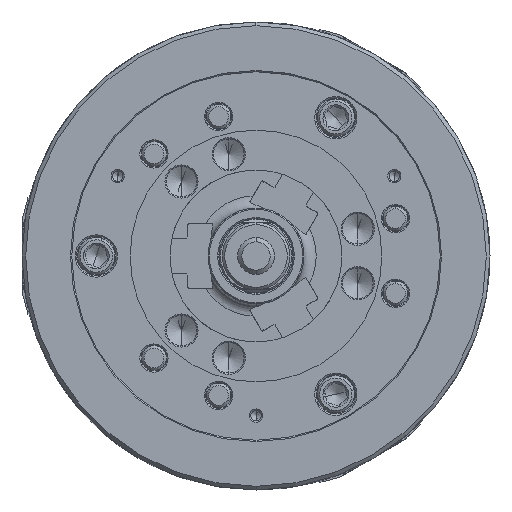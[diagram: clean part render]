
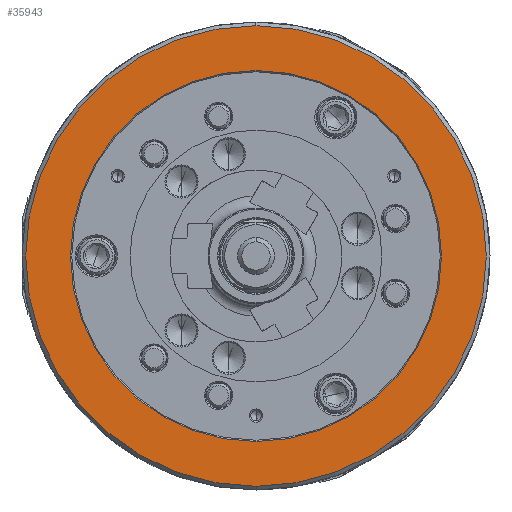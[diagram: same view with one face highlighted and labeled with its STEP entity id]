
A CAD part, left-side view. The second image highlights one B-rep face of the part: STEP entity #35943.
In plain terms, the highlighted planar face has unit normal (-1, 0, 0).
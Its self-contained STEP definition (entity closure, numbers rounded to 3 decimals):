
#2435 = EDGE_LOOP ( 'NONE', ( #108576, #14068 ) ) ;
#10135 = AXIS2_PLACEMENT_3D ( 'NONE', #65404, #44699, #129065 ) ;
#12226 = CIRCLE ( 'NONE', #10135, 151. ) ;
#14068 = ORIENTED_EDGE ( 'NONE', *, *, #25715, .F. ) ;
#20440 = CARTESIAN_POINT ( 'NONE',  ( -114., 0., 0. ) ) ;
#23560 = DIRECTION ( 'NONE',  ( 0., 0., -1. ) ) ;
#23720 = ORIENTED_EDGE ( 'NONE', *, *, #64546, .T. ) ;
#25715 = EDGE_CURVE ( 'NONE', #75032, #72938, #56961, .T. ) ;
#28038 = CARTESIAN_POINT ( 'NONE',  ( -114., 0., -151. ) ) ;
#35943 = ADVANCED_FACE ( 'NONE', ( #55088, #54423 ), #126777, .F. ) ;
#39121 = VERTEX_POINT ( 'NONE', #118206 ) ;
#44699 = DIRECTION ( 'NONE',  ( 1., 0., 0. ) ) ;
#45660 = VERTEX_POINT ( 'NONE', #28038 ) ;
#51496 = AXIS2_PLACEMENT_3D ( 'NONE', #86544, #127435, #107276 ) ;
#54423 = FACE_BOUND ( 'NONE', #100607, .T. ) ;
#55088 = FACE_OUTER_BOUND ( 'NONE', #2435, .T. ) ;
#56419 = CARTESIAN_POINT ( 'NONE',  ( -114., -187.5, 0. ) ) ;
#56961 = CIRCLE ( 'NONE', #115023, 187.5 ) ;
#57430 = EDGE_CURVE ( 'NONE', #45660, #39121, #127833, .T. ) ;
#64546 = EDGE_CURVE ( 'NONE', #39121, #45660, #12226, .T. ) ;
#65099 = DIRECTION ( 'NONE',  ( 1., 0., 0. ) ) ;
#65404 = CARTESIAN_POINT ( 'NONE',  ( -114., 0., 0. ) ) ;
#72938 = VERTEX_POINT ( 'NONE', #122928 ) ;
#74157 = CARTESIAN_POINT ( 'NONE',  ( -114., 0., 0. ) ) ;
#74926 = EDGE_CURVE ( 'NONE', #72938, #75032, #109233, .T. ) ;
#75032 = VERTEX_POINT ( 'NONE', #130728 ) ;
#86544 = CARTESIAN_POINT ( 'NONE',  ( -114., 0., 0. ) ) ;
#89236 = AXIS2_PLACEMENT_3D ( 'NONE', #20440, #112927, #90152 ) ;
#90152 = DIRECTION ( 'NONE',  ( 0., 0., -1. ) ) ;
#100607 = EDGE_LOOP ( 'NONE', ( #23720, #114343 ) ) ;
#105633 = DIRECTION ( 'NONE',  ( 1., 0., 0. ) ) ;
#107276 = DIRECTION ( 'NONE',  ( 0., 0., -1. ) ) ;
#108576 = ORIENTED_EDGE ( 'NONE', *, *, #74926, .F. ) ;
#109233 = CIRCLE ( 'NONE', #51496, 187.5 ) ;
#112927 = DIRECTION ( 'NONE',  ( 1., 0., 0. ) ) ;
#114343 = ORIENTED_EDGE ( 'NONE', *, *, #57430, .T. ) ;
#115023 = AXIS2_PLACEMENT_3D ( 'NONE', #74157, #105633, #115737 ) ;
#115737 = DIRECTION ( 'NONE',  ( 0., 0., -1. ) ) ;
#116404 = AXIS2_PLACEMENT_3D ( 'NONE', #56419, #65099, #23560 ) ;
#118206 = CARTESIAN_POINT ( 'NONE',  ( -114., 0., 151. ) ) ;
#122928 = CARTESIAN_POINT ( 'NONE',  ( -114., 0., -187.5 ) ) ;
#126777 = PLANE ( 'NONE',  #116404 ) ;
#127435 = DIRECTION ( 'NONE',  ( 1., 0., 0. ) ) ;
#127833 = CIRCLE ( 'NONE', #89236, 151. ) ;
#129065 = DIRECTION ( 'NONE',  ( 0., 0., -1. ) ) ;
#130728 = CARTESIAN_POINT ( 'NONE',  ( -114., 0., 187.5 ) ) ;
